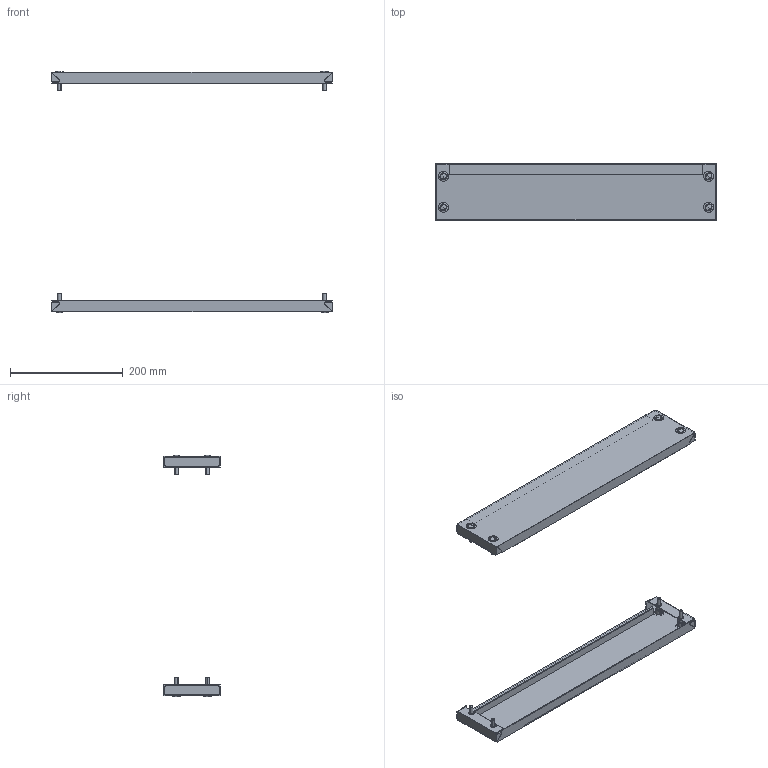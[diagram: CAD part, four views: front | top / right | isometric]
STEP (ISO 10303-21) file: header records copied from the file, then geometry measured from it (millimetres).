
FILE_DESCRIPTION (( 'STEP AP203' ), '1' );
FILE_NAME ('R5FZ5-450.STEP', '2025-06-18T08:33:56', ( '' ), ( '' ), 'SwSTEP 2.0', 'SolidWorks 2022', '' );
FILE_SCHEMA (( 'CONFIG_CONTROL_DESIGN' ));
Length unit declared in the file: millimetre
Products named in the file (5): M6x16 DIN 912 HX cl.4,8 Zinc_stright; R5FZ5-450; Plug_11.5-13Д18ЧК_-00; 6 DIN 6798 A Zinc; RB.1055.00.00.0 simple_-01 (500)
Assembly tree (26 placements, depth 2):
  R5FZ5-450
    RB.1055.00.00.0 simple_-01 (500)  x2
    M6x16 DIN 912 HX cl.4,8 Zinc_stright  x8
    6 DIN 6798 A Zinc  x8
    Plug_11.5-13Д18ЧК_-00  x8
Bounding box: 499 x 100.05 x 428.5 mm (x, y, z)
Volume: 250300.8 mm3; surface area: 339943.7 mm2
Topology: 26 solids, 26 shells, 1196 faces, 3456 edges, 2112 vertices
Faces by surface type: plane 700, bspline 208, cylinder 128, cone 96, torus 48, sphere 16
Entity records: 9921 total; most frequent: CARTESIAN_POINT 2626, ORIENTED_EDGE 1352, DIRECTION 1188, EDGE_CURVE 676, VECTOR 448, LINE 448, VERTEX_POINT 444, AXIS2_PLACEMENT_3D 370
